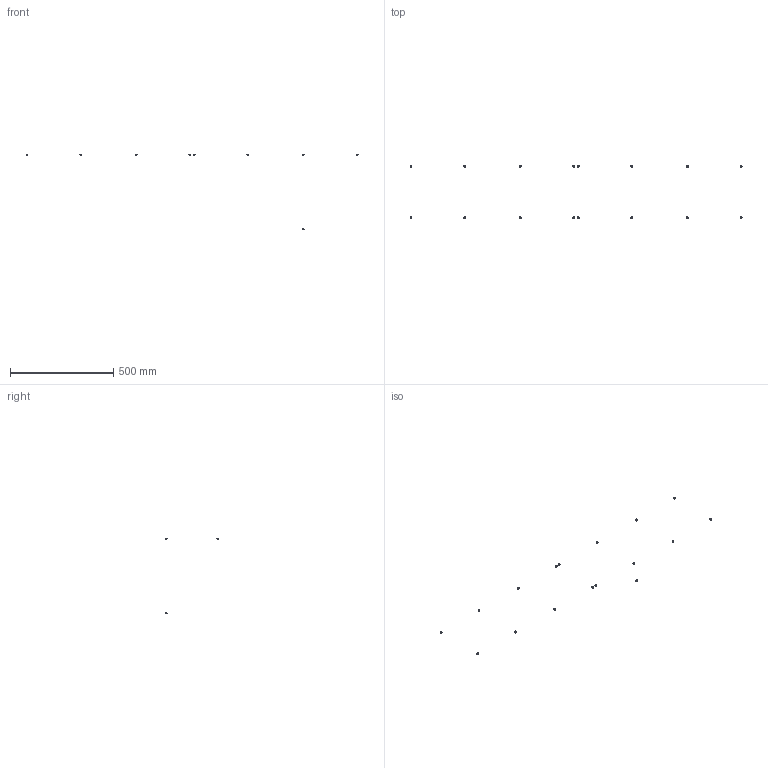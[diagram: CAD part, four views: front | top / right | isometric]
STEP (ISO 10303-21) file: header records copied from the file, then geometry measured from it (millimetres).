
FILE_DESCRIPTION(/* description */ (''),/* implementation_level */ '2;1');
FILE_NAME(/* name */ '14.frame-panels#14.5#BCB5-6',/* time_stamp */ '2014-12-01T20:20:22+01:00',/* author */ (''),/* organization */ (''),/* preprocessor_version */ 'ST-DEVELOPER v14',/* originating_system */ '',/* authorisation */ '');
FILE_SCHEMA (('AUTOMOTIVE_DESIGN'));
Length unit declared in the file: millimetre
Products named in the file (2): Document; screw ISO7380-like, button, M5x06
Assembly tree (9 placements, depth 2):
  Document
    screw ISO7380-like, button, M5x06  x9
Bounding box: 1609.49 x 259.5 x 367.5 mm (x, y, z)
Volume: 4379.8 mm3; surface area: 4910.6 mm2
Topology: 17 solids, 17 shells, 425 faces, 986 edges, 595 vertices
Faces by surface type: plane 255, bspline 170
Entity records: 13721 total; most frequent: CARTESIAN_POINT 6906, B_SPLINE_CURVE_WITH_KNOTS 1134, ORIENTED_EDGE 1008, PCURVE 1008, DEFINITIONAL_REPRESENTATION 1008, SURFACE_CURVE 504, EDGE_CURVE 504, VERTEX_POINT 315
